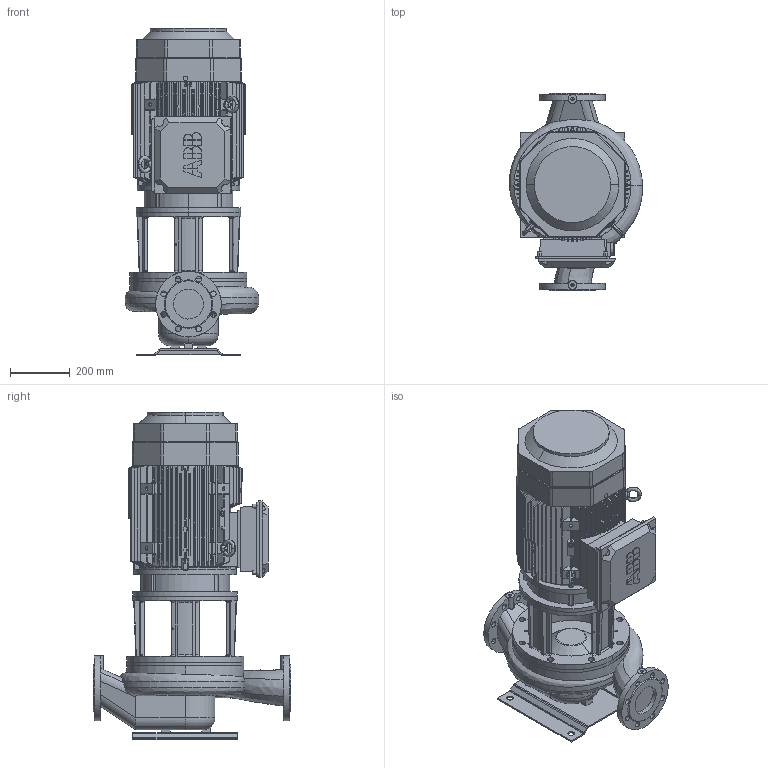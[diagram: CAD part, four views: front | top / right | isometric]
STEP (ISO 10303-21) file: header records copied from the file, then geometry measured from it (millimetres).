
FILE_DESCRIPTION(('STEP AP214'),'1');
FILE_NAME('export.stp','2018-05-30T06:49:51',(' '),(' '),'Spatial InterOp 3D',' ',' ');
FILE_SCHEMA(('AUTOMOTIVE_DESIGN { 1 0 10303 214 1 1 1 1 }'));
Length unit declared in the file: millimetre
Products named in the file (20): W_L100S2SD220; V_TLL100SAL1202; V_PPL100S; P100496; P100495; P100342; IEC180_FRAME; P100781; IEC-180; 3GZV311000-999999-324000-324001_; 3GZV183002-193006-183002-183999_; -simplified-simplified_parts_Sta; -simplified-simplified_parts_M31; -simplified-simplified_parts_Fan; -simplified-simplified_parts_Ter; 3GZV244000-310999-294000-299999_; Implementation-STANDARD_PARTS_Li
Assembly tree (21 placements, depth 4):
  W_L100S2SD220
    V_TLL100SAL1202
    V_PPL100S
    P100496
      P100495  x2
      P100342
    IEC180_FRAME
      P100781
      IEC-180
        3GZV311000-999999-324000-324001_
        3GZV183002-193006-183002-183999_
        -simplified-simplified_parts_Sta
        -simplified-simplified_parts_M31
        -simplified-simplified_parts_Fan
        -simplified-simplified_parts_Ter
        -simplified-simplified_parts_Ter
        3GZV244000-310999-294000-299999_
        3GZV244000-310999-294000-299999_
        3GZV244000-310999-294000-299999_
        Implementation-STANDARD_PARTS_Li  x2
Bounding box: 446.43 x 660 x 1096.94 mm (x, y, z)
Volume: 86528818.4 mm3; surface area: 4959142.5 mm2
Topology: 13 solids, 143 shells, 1638 faces, 4669 edges, 3171 vertices
Faces by surface type: bspline 1264, cylinder 210, plane 96, torus 40, cone 28
Entity records: 87624 total; most frequent: CARTESIAN_POINT 30196, ORIENTED_EDGE 8527, STYLED_ITEM 4632, PRESENTATION_STYLE_ASSIGNMENT 4632, COLOUR_RGB 4632, EDGE_CURVE 4509, VERTEX_POINT 3060, CURVE_STYLE 3019
